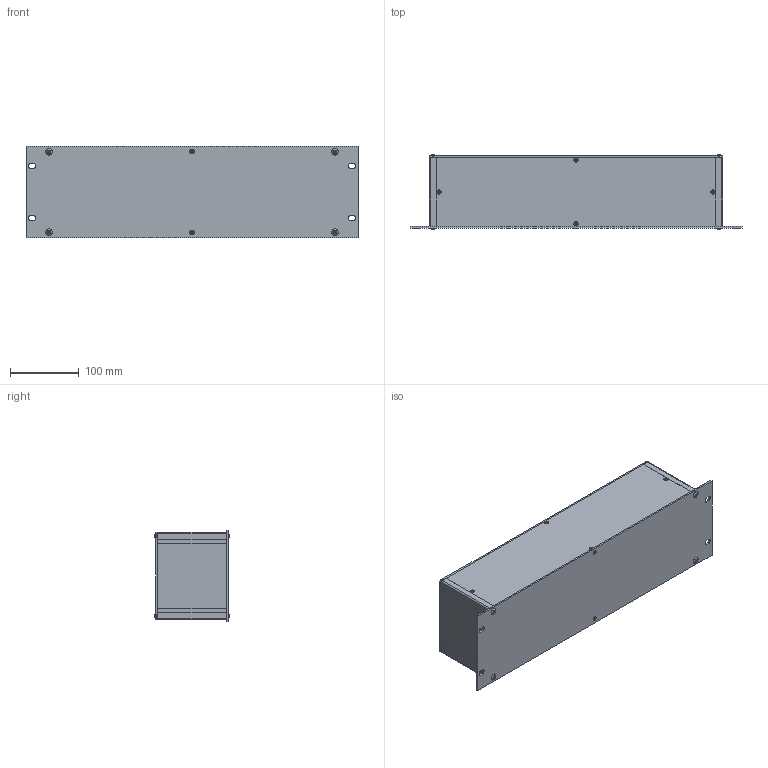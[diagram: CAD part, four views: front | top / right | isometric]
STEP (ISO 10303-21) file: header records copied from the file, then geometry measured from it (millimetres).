
FILE_DESCRIPTION(/* description */ (''),/* implementation_level */ '2;1');
FILE_NAME(/* name */ '//diskstation/Kunden/Gehäuse/Gehäuse/3HE/step/Zoll 3HE Rack Gehäuse Tiefe-100.step',/* time_stamp */ '2022-02-17T15:46:04+01:00',/* author */ (''),/* organization */ (''),/* preprocessor_version */ 'ST-DEVELOPER v18.1',/* originating_system */ 'Autodesk Translation Framework v10.10.0.1391',/* authorisation */ '');
FILE_SCHEMA (('AUTOMOTIVE_DESIGN { 1 0 10303 214 3 1 1 }'));
Length unit declared in the file: millimetre
Products named in the file (28): 3HE Gehäuse mit parametern; Gehäuse; Gehäuseprofil 1 unten links; Gehäuseprofil 2 oben rechts; Gehäuseprofil 1 unten rechts; Gehäuseprofil 2 oben links; Rückplatte; Deckel; Seitenteil links; Seitenteil rechts; Bodenplatte; Montageklotz Front/Deckel; Montageklotz Front/Boden; Montageklotz Rück/Deckel; Montageklotz Rück/Boden; Gewindestreifen; Frontplatte; Schrauben M5; Schraube Front; Schraube Front (1); Schraube Front (2); Schraube Front (3); Schraube Rück (1); Schraube Rück; Schraube Rück (2); Schraube Rück (3); Schrauben M3; HI_Senkschraube DIN 965 A v2 M3x5 24677.030.005(High)
Assembly tree (37 placements, depth 3):
  3HE Gehäuse mit parametern
    Gehäuse
      Gehäuseprofil 1 unten links
      Gehäuseprofil 2 oben rechts
      Gehäuseprofil 1 unten rechts
      Gehäuseprofil 2 oben links
      Rückplatte
      Deckel
      Seitenteil links
      Seitenteil rechts
      Bodenplatte
      Montageklotz Front/Deckel
      Montageklotz Front/Boden
      Montageklotz Rück/Deckel
      Montageklotz Rück/Boden
      Gewindestreifen  x2
    Frontplatte
    Schrauben M5
      Schraube Front
      Schraube Front (1)
      Schraube Front (2)
      Schraube Front (3)
      Schraube Rück (1)
      Schraube Rück
      Schraube Rück (2)
      Schraube Rück (3)
    Schrauben M3
      HI_Senkschraube DIN 965 A v2 M3x5 24677.030.005(High)  x10
Bounding box: 483 x 108.2 x 132.5 mm (x, y, z)
Volume: 574696.6 mm3; surface area: 500923.9 mm2
Topology: 34 solids, 34 shells, 802 faces, 1920 edges, 1186 vertices
Faces by surface type: plane 346, cylinder 276, cone 164, torus 8, bspline 8
Full cylindrical faces by diameter (mm): 2.529 x30, 3 x10, 3.2 x10, 4.234 x40, 5 x8, 5.2 x4, 5.3 x8, 5.6 x10, 9.5 x8
Entity records: 15811 total; most frequent: CARTESIAN_POINT 2922, DIRECTION 2634, ORIENTED_EDGE 2334, EDGE_CURVE 1167, AXIS2_PLACEMENT_3D 978, VERTEX_POINT 726, LINE 678, VECTOR 678
